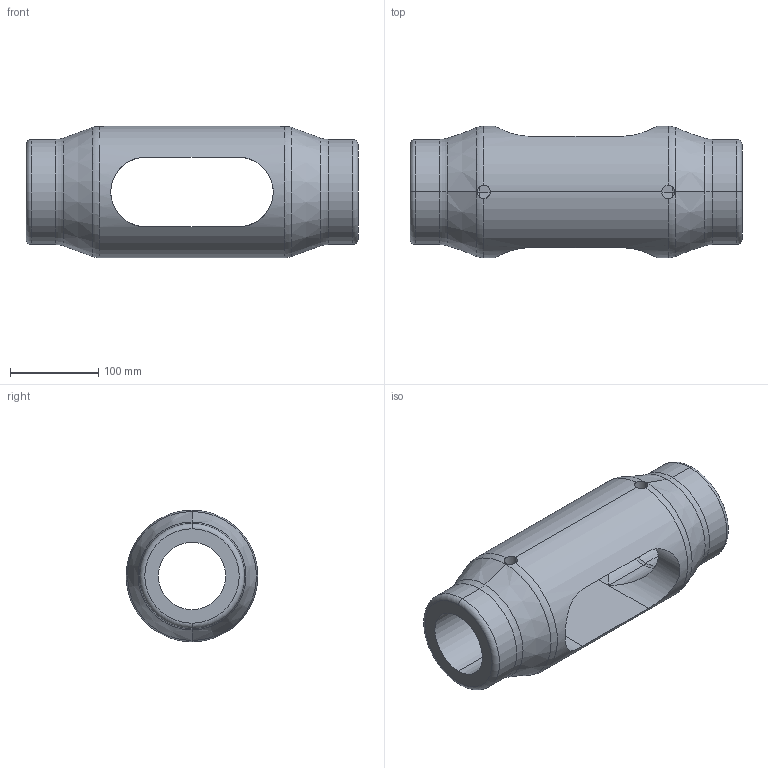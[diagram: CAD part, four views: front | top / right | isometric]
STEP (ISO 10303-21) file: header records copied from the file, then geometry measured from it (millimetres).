
FILE_DESCRIPTION (( 'STEP AP203' ), '1' );
FILE_NAME ('Kreuzmuffe M76.STEP', '2018-03-14T05:22:48', ( 'install' ), ( 'Hewlett-Packard Company' ), 'SwSTEP 2.0', 'SolidWorks 2017', '' );
FILE_SCHEMA (( 'CONFIG_CONTROL_DESIGN' ));
Length unit declared in the file: millimetre
Products named in the file (1): Kreuzmuffe M76
Bounding box: 376 x 148.93 x 149 mm (x, y, z)
Volume: 2965635.4 mm3; surface area: 254983.3 mm2
Topology: 1 solids, 1 shells, 46 faces, 108 edges, 58 vertices
Faces by surface type: cylinder 22, torus 16, cone 4, plane 4
Entity records: 1942 total; most frequent: CARTESIAN_POINT 824, DIRECTION 228, ORIENTED_EDGE 216, EDGE_CURVE 108, AXIS2_PLACEMENT_3D 97, VERTEX_POINT 58, EDGE_LOOP 50, CIRCLE 50
